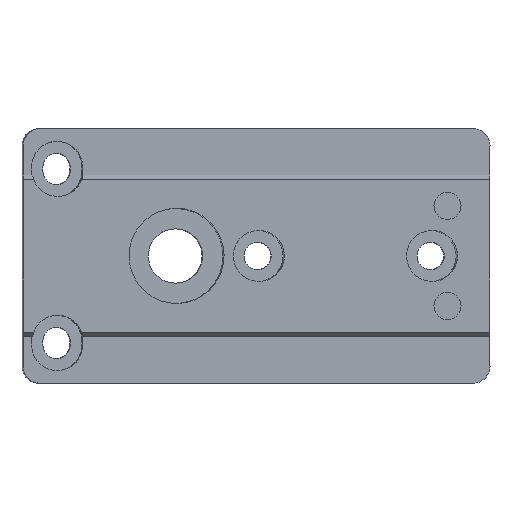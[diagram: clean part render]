
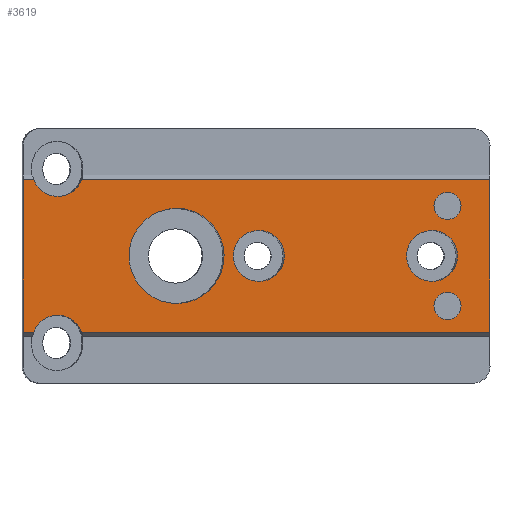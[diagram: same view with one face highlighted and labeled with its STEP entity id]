
A CAD part, top view. The second image highlights one B-rep face of the part: STEP entity #3619.
In plain terms, the highlighted planar face has unit normal (0, 0, 1).
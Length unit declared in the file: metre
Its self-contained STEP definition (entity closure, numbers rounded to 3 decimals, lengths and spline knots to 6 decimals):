
#102=ELLIPSE('',#3856,0.005601,0.0056);
#103=ELLIPSE('',#3857,0.003,0.003);
#104=ELLIPSE('',#3858,0.003,0.003);
#105=ELLIPSE('',#3861,0.003,0.003);
#106=ELLIPSE('',#3862,0.003,0.003);
#180=CIRCLE('',#3859,0.0016);
#181=CIRCLE('',#3860,0.0016);
#263=ORIENTED_EDGE('',*,*,#1343,.T.);
#264=ORIENTED_EDGE('',*,*,#1344,.T.);
#265=ORIENTED_EDGE('',*,*,#1345,.T.);
#266=ORIENTED_EDGE('',*,*,#1346,.T.);
#267=ORIENTED_EDGE('',*,*,#1347,.T.);
#268=ORIENTED_EDGE('',*,*,#1348,.F.);
#269=ORIENTED_EDGE('',*,*,#1349,.T.);
#270=ORIENTED_EDGE('',*,*,#1350,.F.);
#271=ORIENTED_EDGE('',*,*,#1351,.T.);
#272=ORIENTED_EDGE('',*,*,#1352,.F.);
#273=ORIENTED_EDGE('',*,*,#1353,.T.);
#274=ORIENTED_EDGE('',*,*,#1354,.T.);
#275=ORIENTED_EDGE('',*,*,#1355,.T.);
#1343=EDGE_CURVE('',#1883,#1883,#102,.T.);
#1344=EDGE_CURVE('',#1884,#1884,#103,.T.);
#1345=EDGE_CURVE('',#1885,#1885,#104,.T.);
#1346=EDGE_CURVE('',#1886,#1886,#180,.T.);
#1347=EDGE_CURVE('',#1887,#1887,#181,.T.);
#1348=EDGE_CURVE('',#1888,#1889,#105,.F.);
#1349=EDGE_CURVE('',#1888,#1890,#2228,.T.);
#1350=EDGE_CURVE('',#1891,#1890,#2229,.T.);
#1351=EDGE_CURVE('',#1891,#1892,#2230,.T.);
#1352=EDGE_CURVE('',#1893,#1892,#106,.F.);
#1353=EDGE_CURVE('',#1893,#1894,#2231,.T.);
#1354=EDGE_CURVE('',#1894,#1895,#2232,.T.);
#1355=EDGE_CURVE('',#1895,#1889,#2233,.T.);
#1883=VERTEX_POINT('',#5093);
#1884=VERTEX_POINT('',#5095);
#1885=VERTEX_POINT('',#5097);
#1886=VERTEX_POINT('',#5099);
#1887=VERTEX_POINT('',#5101);
#1888=VERTEX_POINT('',#5103);
#1889=VERTEX_POINT('',#5104);
#1890=VERTEX_POINT('',#5106);
#1891=VERTEX_POINT('',#5108);
#1892=VERTEX_POINT('',#5110);
#1893=VERTEX_POINT('',#5112);
#1894=VERTEX_POINT('',#5114);
#1895=VERTEX_POINT('',#5116);
#2228=LINE('',#5105,#2624);
#2229=LINE('',#5107,#2625);
#2230=LINE('',#5109,#2626);
#2231=LINE('',#5113,#2627);
#2232=LINE('',#5115,#2628);
#2233=LINE('',#5117,#2629);
#2624=VECTOR('',#4173,1.);
#2625=VECTOR('',#4174,1.);
#2626=VECTOR('',#4175,1.);
#2627=VECTOR('',#4178,1.);
#2628=VECTOR('',#4179,1.);
#2629=VECTOR('',#4180,1.);
#3007=EDGE_LOOP('',(#263));
#3008=EDGE_LOOP('',(#264));
#3009=EDGE_LOOP('',(#265));
#3010=EDGE_LOOP('',(#266));
#3011=EDGE_LOOP('',(#267));
#3012=EDGE_LOOP('',(#268,#269,#270,#271,#272,#273,#274,#275));
#3247=FACE_BOUND('',#3007,.T.);
#3248=FACE_BOUND('',#3008,.T.);
#3249=FACE_BOUND('',#3009,.T.);
#3250=FACE_BOUND('',#3010,.T.);
#3251=FACE_BOUND('',#3011,.T.);
#3252=FACE_BOUND('',#3012,.T.);
#3479=PLANE('',#3855);
#3619=ADVANCED_FACE('',(#3247,#3248,#3249,#3250,#3251,#3252),#3479,.F.);
#3855=AXIS2_PLACEMENT_3D('',#5091,#4159,#4160);
#3856=AXIS2_PLACEMENT_3D('',#5092,#4161,#4162);
#3857=AXIS2_PLACEMENT_3D('',#5094,#4163,#4164);
#3858=AXIS2_PLACEMENT_3D('',#5096,#4165,#4166);
#3859=AXIS2_PLACEMENT_3D('',#5098,#4167,#4168);
#3860=AXIS2_PLACEMENT_3D('',#5100,#4169,#4170);
#3861=AXIS2_PLACEMENT_3D('',#5102,#4171,#4172);
#3862=AXIS2_PLACEMENT_3D('',#5111,#4176,#4177);
#4159=DIRECTION('',(0.,0.,-1.));
#4160=DIRECTION('',(-1.,0.,0.));
#4161=DIRECTION('',(0.,0.,-1.));
#4162=DIRECTION('',(-1.,0.,0.));
#4163=DIRECTION('',(0.,0.,-1.));
#4164=DIRECTION('',(-1.,0.,0.));
#4165=DIRECTION('',(0.,0.,-1.));
#4166=DIRECTION('',(-1.,0.,0.));
#4167=DIRECTION('',(0.,0.,-1.));
#4168=DIRECTION('',(-1.,0.,0.));
#4169=DIRECTION('',(0.,0.,-1.));
#4170=DIRECTION('',(-1.,0.,0.));
#4171=DIRECTION('',(0.,0.,-1.));
#4172=DIRECTION('',(-1.,0.,0.));
#4173=DIRECTION('',(1.,0.,0.));
#4174=DIRECTION('',(0.,-1.,0.));
#4175=DIRECTION('',(-1.,0.,0.));
#4176=DIRECTION('',(0.,0.,-1.));
#4177=DIRECTION('',(-1.,0.,0.));
#4178=DIRECTION('',(-1.,0.,0.));
#4179=DIRECTION('',(0.,-1.,0.));
#4180=DIRECTION('',(1.,0.,0.));
#5091=CARTESIAN_POINT('',(0.055,0.,0.0041));
#5092=CARTESIAN_POINT('',(0.018074,0.,0.0041));
#5093=CARTESIAN_POINT('',(0.012473,0.,0.0041));
#5094=CARTESIAN_POINT('',(0.048179,0.,0.0041));
#5095=CARTESIAN_POINT('',(0.045178,0.,0.0041));
#5096=CARTESIAN_POINT('',(0.027776,0.,0.0041));
#5097=CARTESIAN_POINT('',(0.024775,0.,0.0041));
#5098=CARTESIAN_POINT('',(0.05,0.0059,0.0041));
#5099=CARTESIAN_POINT('',(0.0484,0.0059,0.0041));
#5100=CARTESIAN_POINT('',(0.05,-0.0059,0.0041));
#5101=CARTESIAN_POINT('',(0.0484,-0.0059,0.0041));
#5102=CARTESIAN_POINT('',(0.004072,-0.01,0.0041));
#5103=CARTESIAN_POINT('',(0.006903,-0.009004,0.0041));
#5104=CARTESIAN_POINT('',(0.001242,-0.009004,0.0041));
#5105=CARTESIAN_POINT('',(0.055,-0.009004,0.0041));
#5106=CARTESIAN_POINT('',(0.055,-0.009004,0.0041));
#5107=CARTESIAN_POINT('',(0.055,0.,0.0041));
#5108=CARTESIAN_POINT('',(0.055,0.009004,0.0041));
#5109=CARTESIAN_POINT('',(0.,0.009004,0.0041));
#5110=CARTESIAN_POINT('',(0.006903,0.009004,0.0041));
#5111=CARTESIAN_POINT('',(0.004072,0.01,0.0041));
#5112=CARTESIAN_POINT('',(0.001242,0.009004,0.0041));
#5113=CARTESIAN_POINT('',(0.,0.009004,0.0041));
#5114=CARTESIAN_POINT('',(0.,0.009004,0.0041));
#5115=CARTESIAN_POINT('',(0.,0.,0.0041));
#5116=CARTESIAN_POINT('',(0.,-0.009004,0.0041));
#5117=CARTESIAN_POINT('',(0.055,-0.009004,0.0041));
